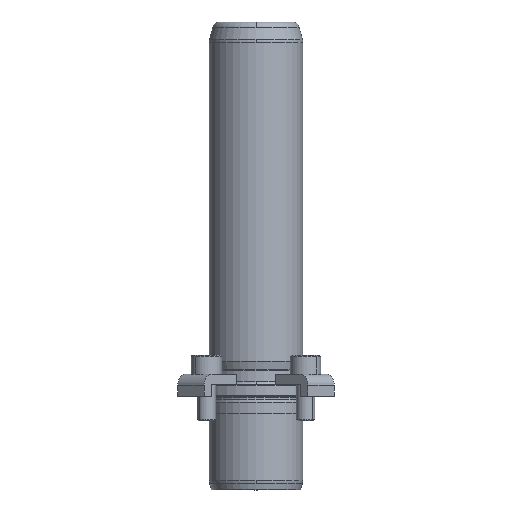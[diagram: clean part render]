
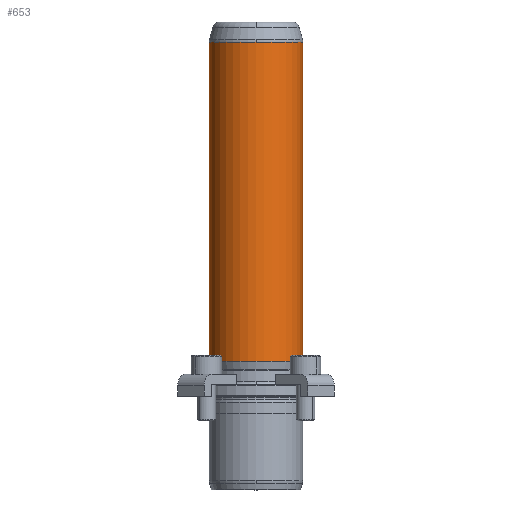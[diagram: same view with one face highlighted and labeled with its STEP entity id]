
A CAD part, front view. The second image highlights one B-rep face of the part: STEP entity #653.
In plain terms, the highlighted cylindrical face has radius 20 mm (diameter 40 mm), a partial arc.
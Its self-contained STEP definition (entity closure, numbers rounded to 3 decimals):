
#566=CARTESIAN_POINT('',(0.0,-20.,151.342));
#567=VERTEX_POINT('',#566);
#594=CARTESIAN_POINT('',(-20.0,0.,151.342));
#595=VERTEX_POINT('',#594);
#603=CARTESIAN_POINT('',(0.0,0.,151.342));
#604=DIRECTION('',(0.0,0.0,1.0));
#605=DIRECTION('',(1.0,0.0,0.0));
#606=AXIS2_PLACEMENT_3D('',#603,#604,#605);
#607=CIRCLE('',#606,20.0);
#608=EDGE_CURVE('',#595,#567,#607,.T.);
#613=CARTESIAN_POINT('',(0.0,0.,83.171));
#614=DIRECTION('',(0.0,0.,1.0));
#615=DIRECTION('',(1.0,0.0,0.0));
#616=AXIS2_PLACEMENT_3D('',#613,#614,#615);
#617=CYLINDRICAL_SURFACE('',#616,20.0);
#618=CARTESIAN_POINT('',(20.0,0.,151.342));
#619=VERTEX_POINT('',#618);
#620=CARTESIAN_POINT('',(20.0,0.,15.0));
#621=VERTEX_POINT('',#620);
#622=CARTESIAN_POINT('',(20.0,0.,151.342));
#623=DIRECTION('',(0.0,0.0,-1.0));
#624=VECTOR('',#623,136.342);
#625=LINE('',#622,#624);
#626=EDGE_CURVE('',#619,#621,#625,.T.);
#627=ORIENTED_EDGE('',*,*,#626,.F.);
#628=CARTESIAN_POINT('',(0.0,0.,151.342));
#629=DIRECTION('',(0.0,0.0,1.0));
#630=DIRECTION('',(1.0,0.0,0.0));
#631=AXIS2_PLACEMENT_3D('',#628,#629,#630);
#632=CIRCLE('',#631,20.0);
#633=EDGE_CURVE('',#567,#619,#632,.T.);
#634=ORIENTED_EDGE('',*,*,#633,.F.);
#635=ORIENTED_EDGE('',*,*,#608,.F.);
#636=CARTESIAN_POINT('',(-20.0,0.,15.0));
#637=VERTEX_POINT('',#636);
#638=CARTESIAN_POINT('',(-20.0,0.,151.342));
#639=DIRECTION('',(0.0,0.0,-1.0));
#640=VECTOR('',#639,136.342);
#641=LINE('',#638,#640);
#642=EDGE_CURVE('',#595,#637,#641,.T.);
#643=ORIENTED_EDGE('',*,*,#642,.T.);
#644=CARTESIAN_POINT('',(0.0,0.,15.0));
#645=DIRECTION('',(0.0,0.0,1.0));
#646=DIRECTION('',(1.0,0.0,0.0));
#647=AXIS2_PLACEMENT_3D('',#644,#645,#646);
#648=CIRCLE('',#647,20.0);
#649=EDGE_CURVE('',#637,#621,#648,.T.);
#650=ORIENTED_EDGE('',*,*,#649,.T.);
#651=EDGE_LOOP('',(#627,#634,#635,#643,#650));
#652=FACE_OUTER_BOUND('',#651,.T.);
#653=ADVANCED_FACE('',(#652),#617,.T.);
